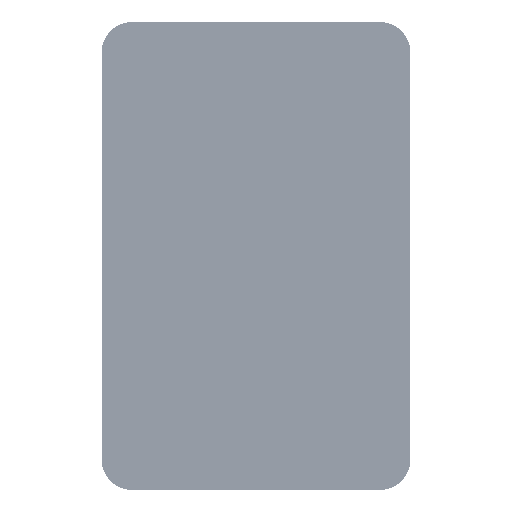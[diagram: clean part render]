
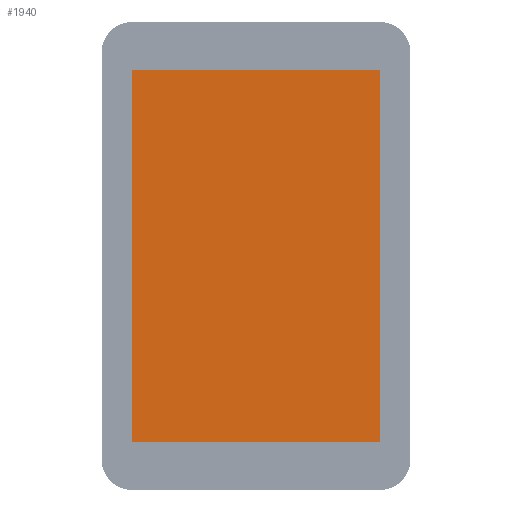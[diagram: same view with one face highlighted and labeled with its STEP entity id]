
A CAD part, top view. The second image highlights one B-rep face of the part: STEP entity #1940.
In plain terms, the highlighted planar face has unit normal (0, 0, 1).
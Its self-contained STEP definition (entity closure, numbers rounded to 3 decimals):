
#321=DIRECTION('',(1.,0.,0.));
#322=VECTOR('',#321,48.96);
#323=CARTESIAN_POINT('',(-24.48,36.72,1.05));
#324=LINE('',#323,#322);
#335=DIRECTION('',(0.,-1.,0.));
#336=VECTOR('',#335,73.44);
#337=CARTESIAN_POINT('',(24.48,36.72,1.05));
#338=LINE('',#337,#336);
#349=DIRECTION('',(-1.,0.,0.));
#350=VECTOR('',#349,48.96);
#351=CARTESIAN_POINT('',(24.48,-36.72,1.05));
#352=LINE('',#351,#350);
#363=DIRECTION('',(0.,1.,0.));
#364=VECTOR('',#363,73.44);
#365=CARTESIAN_POINT('',(-24.48,-36.72,1.05));
#366=LINE('',#365,#364);
#1499=CARTESIAN_POINT('',(-24.48,36.72,1.05));
#1500=CARTESIAN_POINT('',(24.48,36.72,1.05));
#1501=VERTEX_POINT('',#1499);
#1502=VERTEX_POINT('',#1500);
#1503=CARTESIAN_POINT('',(24.48,-36.72,1.05));
#1504=VERTEX_POINT('',#1503);
#1505=CARTESIAN_POINT('',(-24.48,-36.72,1.05));
#1506=VERTEX_POINT('',#1505);
#1926=CARTESIAN_POINT('',(0.,0.,1.05));
#1927=DIRECTION('',(0.,0.,1.));
#1928=DIRECTION('',(1.,0.,0.));
#1929=AXIS2_PLACEMENT_3D('',#1926,#1927,#1928);
#1930=PLANE('',#1929);
#1931=ORIENTED_EDGE('',*,*,#1916,.T.);
#1933=ORIENTED_EDGE('',*,*,#1932,.T.);
#1935=ORIENTED_EDGE('',*,*,#1934,.T.);
#1937=ORIENTED_EDGE('',*,*,#1936,.T.);
#1938=EDGE_LOOP('',(#1931,#1933,#1935,#1937));
#1939=FACE_OUTER_BOUND('',#1938,.F.);
#1940=ADVANCED_FACE('',(#1939),#1930,.T.);
#1916=EDGE_CURVE('',#1501,#1502,#324,.T.);
#1932=EDGE_CURVE('',#1502,#1504,#338,.T.);
#1934=EDGE_CURVE('',#1504,#1506,#352,.T.);
#1936=EDGE_CURVE('',#1506,#1501,#366,.T.);
